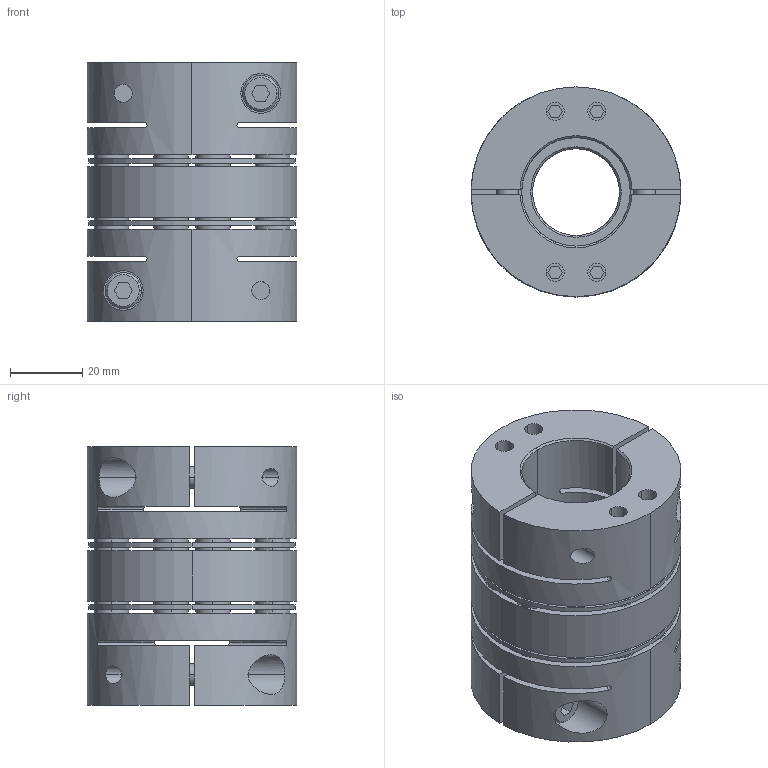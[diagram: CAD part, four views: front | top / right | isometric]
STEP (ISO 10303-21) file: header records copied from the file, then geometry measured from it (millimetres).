
FILE_DESCRIPTION((''),'2;1');
FILE_NAME('TAD-58C-24×30.stp','2022-11-13T22:08:27',(''),(''),'AutoCAD STEP 2000i','AutoCAD 2000i',', , ');
FILE_SCHEMA(('CONFIG_CONTROL_DESIGN'));
Length unit declared in the file: millimetre
Products named in the file (8): TAD-58C-22×22; 忣兜1; TA58C-22-2; CAP-M6×20; TA58C-22; TA58C-12-2; TA58C-12; TAS-58C-ITA
Assembly tree (10 placements, depth 3):
  TAD-58C-22×22
    忣兜1
    TA58C-22-2
      CAP-M6×20
    TA58C-22
      CAP-M6×20
    TA58C-12-2
      CAP-M6×20
    TA58C-12
      CAP-M6×20
    TAS-58C-ITA
Bounding box: 58 x 58 x 71.5 mm (x, y, z)
Volume: 122020 mm3; surface area: 53969.6 mm2
Topology: 1 solids, 5 shells, 568 faces, 1370 edges, 954 vertices
Faces by surface type: plane 252, cylinder 228, cone 72, bspline 16
Entity records: 18721 total; most frequent: CARTESIAN_POINT 4821, DIRECTION 3022, ORIENTED_EDGE 2640, EDGE_CURVE 1320, AXIS2_PLACEMENT_3D 1145, VERTEX_POINT 860, VECTOR 732, LINE 732
